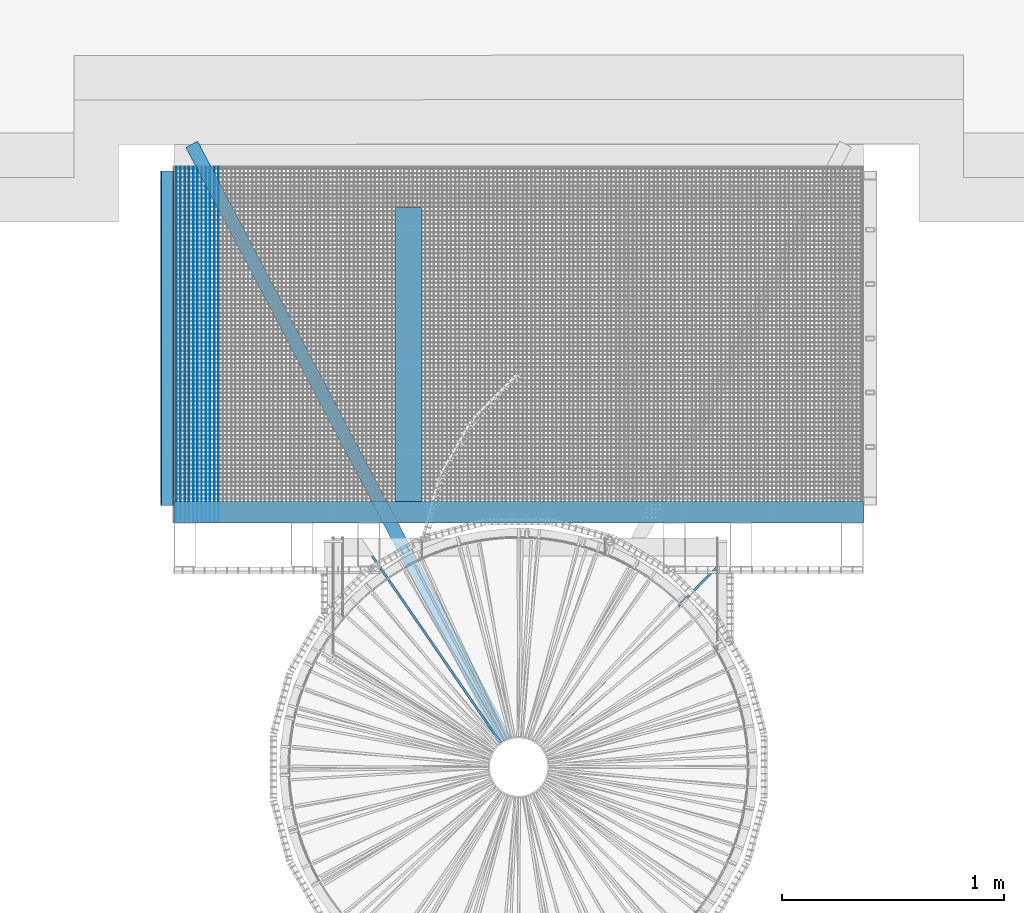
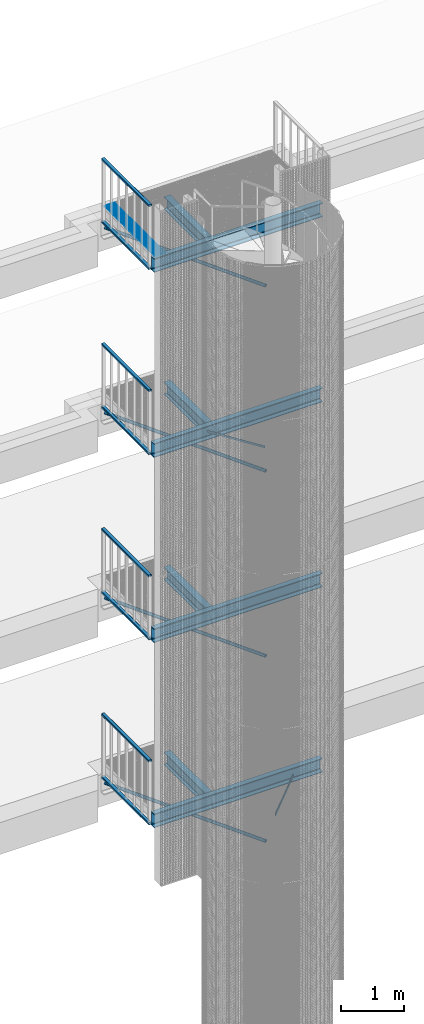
# One storey, part 77 of 1183: 33 beams, 23 elements without a shape of their own.
"""IFC2X3 building model written with IfcOpenShell, lengths in millimetres."""

from ifc_helpers import new_model, si_unit, frame, origin_with_axes, origin_2d_with_axis, place, context, subcontext, project, spatial, polyline, rectangle, hollow_rectangle, hollow_circle, i_section, u_section, outline, extrude, boolean, material, type_object, element, aggregate, save


model = new_model("IFC2X3")

# Units and contexts
model_context = context("Model", 3, precision=1e-05, world=origin_with_axes())
body_context = subcontext(model_context, "Body", "Model", "MODEL_VIEW")
ifc_project = project(units=[si_unit("LENGTHUNIT", "METRE", prefix="MILLI"), si_unit("AREAUNIT", "SQUARE_METRE"), si_unit("VOLUMEUNIT", "CUBIC_METRE"), si_unit("MASSUNIT", "GRAM", prefix="KILO"), si_unit("TIMEUNIT", "SECOND"), si_unit("PLANEANGLEUNIT", "RADIAN"), si_unit("SOLIDANGLEUNIT", "STERADIAN"), si_unit("THERMODYNAMICTEMPERATUREUNIT", "DEGREE_CELSIUS"), si_unit("LUMINOUSINTENSITYUNIT", "LUMEN")], contexts=[model_context])

# Site, building, storey
site_placement = place(None, origin_with_axes())
site = spatial("IfcSite", under=ifc_project, at=site_placement, Name="Undefined", CompositionType="ELEMENT")
building_placement = place(site_placement, origin_with_axes())
building = spatial("IfcBuilding", under=site, at=building_placement, Name="Undefined", CompositionType="ELEMENT")
storey_placement = place(building_placement, origin_with_axes())
storey = spatial("IfcBuildingStorey", under=building, at=storey_placement, Name="Undefined", CompositionType="ELEMENT", Elevation=0.0)

# Assembly, beams
assembly_1_placement = place(storey_placement, origin_with_axes())
assembly_1 = element("IfcElementAssembly", 1, at=assembly_1_placement, inside=storey, Name="BORDURE", AssemblyPlace="NOTDEFINED", PredefinedType="NOTDEFINED")
ifc_material_1 = material(Name="STEEL/S235JR")
beam_type_1 = type_object("IfcBeamType", Name="PL2*10", PredefinedType="NOTDEFINED")
beam_1_placement = place(assembly_1_placement, frame((-1538.92457524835, 1101.99474406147, 17285.0), z_axis=(0.0, 0.0, 1.0), x_axis=(-4.50599999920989e-06, 0.999999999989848, 0.0)))
beam_1 = element("IfcBeam", 2, at=beam_1_placement, type_object=beam_type_1, material=ifc_material_1, Name="ENTRETOISE", context=body_context, shape_type="SweptSolid", body=[
    extrude(rectangle(XDim=2.0, YDim=10.0, at=origin_2d_with_axis()), frame((1596.0000000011, -1.35186458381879e-18, -7.27595761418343e-12), z_axis=(-1.0, 0.0, 0.0), x_axis=(0.0, -1.0, 0.0)), (0.0, 0.0, 1.0), 1596.0),
])
beam_2_placement = place(assembly_1_placement, frame((-1519.92457524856, 1101.99483757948, 17285.0), z_axis=(0.0, 0.0, 1.0), x_axis=(-4.50599999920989e-06, 0.999999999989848, 0.0)))
beam_2 = element("IfcBeam", 3, at=beam_2_placement, type_object=beam_type_1, material=ifc_material_1, Name="ENTRETOISE", context=body_context, shape_type="SweptSolid", body=[
    extrude(rectangle(XDim=2.0, YDim=10.0, at=origin_2d_with_axis()), frame((1596.0000000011, -1.35186458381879e-18, -7.27595761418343e-12), z_axis=(-1.0, 0.0, 0.0), x_axis=(0.0, -1.0, 0.0)), (0.0, 0.0, 1.0), 1596.0),
])
beam_3_placement = place(assembly_1_placement, frame((-1500.92457524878, 1101.99493109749, 17285.0), z_axis=(0.0, 0.0, 1.0), x_axis=(-4.50599999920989e-06, 0.999999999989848, 0.0)))
beam_3 = element("IfcBeam", 4, at=beam_3_placement, type_object=beam_type_1, material=ifc_material_1, Name="ENTRETOISE", context=body_context, shape_type="SweptSolid", body=[
    extrude(rectangle(XDim=2.0, YDim=10.0, at=origin_2d_with_axis()), frame((1596.0000000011, -1.35186458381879e-18, -7.27595761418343e-12), z_axis=(-1.0, 0.0, 0.0), x_axis=(0.0, -1.0, 0.0)), (0.0, 0.0, 1.0), 1596.0),
])
beam_4_placement = place(assembly_1_placement, frame((-1481.92457524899, 1101.9950246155, 17285.0), z_axis=(0.0, 0.0, 1.0), x_axis=(-4.50599999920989e-06, 0.999999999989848, 0.0)))
beam_4 = element("IfcBeam", 5, at=beam_4_placement, type_object=beam_type_1, material=ifc_material_1, Name="ENTRETOISE", context=body_context, shape_type="SweptSolid", body=[
    extrude(rectangle(XDim=2.0, YDim=10.0, at=origin_2d_with_axis()), frame((1596.0000000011, -1.35186458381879e-18, -7.27595761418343e-12), z_axis=(-1.0, 0.0, 0.0), x_axis=(0.0, -1.0, 0.0)), (0.0, 0.0, 1.0), 1596.0),
])
beam_5_placement = place(assembly_1_placement, frame((-1462.92457524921, 1101.99511813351, 17285.0), z_axis=(0.0, 0.0, 1.0), x_axis=(-4.50599999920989e-06, 0.999999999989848, 0.0)))
beam_5 = element("IfcBeam", 6, at=beam_5_placement, type_object=beam_type_1, material=ifc_material_1, Name="ENTRETOISE", context=body_context, shape_type="SweptSolid", body=[
    extrude(rectangle(XDim=2.0, YDim=10.0, at=origin_2d_with_axis()), frame((1596.0000000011, -1.35186458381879e-18, -7.27595761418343e-12), z_axis=(-1.0, 0.0, 0.0), x_axis=(0.0, -1.0, 0.0)), (0.0, 0.0, 1.0), 1596.0),
])
beam_6_placement = place(assembly_1_placement, frame((-1443.92457524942, 1101.99521165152, 17285.0), z_axis=(0.0, 0.0, 1.0), x_axis=(-4.50599999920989e-06, 0.999999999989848, 0.0)))
beam_6 = element("IfcBeam", 7, at=beam_6_placement, type_object=beam_type_1, material=ifc_material_1, Name="ENTRETOISE", context=body_context, shape_type="SweptSolid", body=[
    extrude(rectangle(XDim=2.0, YDim=10.0, at=origin_2d_with_axis()), frame((1596.0000000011, -1.35186458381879e-18, -7.27595761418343e-12), z_axis=(-1.0, 0.0, 0.0), x_axis=(0.0, -1.0, 0.0)), (0.0, 0.0, 1.0), 1596.0),
])
beam_7_placement = place(assembly_1_placement, frame((-1424.92457524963, 1101.99530516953, 17285.0), z_axis=(0.0, 0.0, 1.0), x_axis=(-4.50599999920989e-06, 0.999999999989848, 0.0)))
beam_7 = element("IfcBeam", 8, at=beam_7_placement, type_object=beam_type_1, material=ifc_material_1, Name="ENTRETOISE", context=body_context, shape_type="SweptSolid", body=[
    extrude(rectangle(XDim=2.0, YDim=10.0, at=origin_2d_with_axis()), frame((1596.0000000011, -1.35186458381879e-18, -7.27595761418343e-12), z_axis=(-1.0, 0.0, 0.0), x_axis=(0.0, -1.0, 0.0)), (0.0, 0.0, 1.0), 1596.0),
])
beam_8_placement = place(assembly_1_placement, frame((-1405.92457524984, 1101.99539868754, 17285.0), z_axis=(0.0, 0.0, 1.0), x_axis=(-4.50599999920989e-06, 0.999999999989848, 0.0)))
beam_8 = element("IfcBeam", 9, at=beam_8_placement, type_object=beam_type_1, material=ifc_material_1, Name="ENTRETOISE", context=body_context, shape_type="SweptSolid", body=[
    extrude(rectangle(XDim=2.0, YDim=10.0, at=origin_2d_with_axis()), frame((1596.0000000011, -1.35186458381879e-18, -7.27595761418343e-12), z_axis=(-1.0, 0.0, 0.0), x_axis=(0.0, -1.0, 0.0)), (0.0, 0.0, 1.0), 1596.0),
])
beam_9_placement = place(assembly_1_placement, frame((-1386.92457525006, 1101.99549220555, 17285.0), z_axis=(0.0, 0.0, 1.0), x_axis=(-4.50599999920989e-06, 0.999999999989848, 0.0)))
beam_9 = element("IfcBeam", 10, at=beam_9_placement, type_object=beam_type_1, material=ifc_material_1, Name="ENTRETOISE", context=body_context, shape_type="SweptSolid", body=[
    extrude(rectangle(XDim=2.0, YDim=10.0, at=origin_2d_with_axis()), frame((1596.0000000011, -1.35186458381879e-18, -7.27595761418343e-12), z_axis=(-1.0, 0.0, 0.0), x_axis=(0.0, -1.0, 0.0)), (0.0, 0.0, 1.0), 1596.0),
])
beam_10_placement = place(assembly_1_placement, frame((-1367.92457525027, 1101.99558572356, 17285.0), z_axis=(0.0, 0.0, 1.0), x_axis=(-4.50599999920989e-06, 0.999999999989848, 0.0)))
beam_10 = element("IfcBeam", 11, at=beam_10_placement, type_object=beam_type_1, material=ifc_material_1, Name="ENTRETOISE", context=body_context, shape_type="SweptSolid", body=[
    extrude(rectangle(XDim=2.0, YDim=10.0, at=origin_2d_with_axis()), frame((1596.0000000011, -1.35186458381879e-18, -7.27595761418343e-12), z_axis=(-1.0, 0.0, 0.0), x_axis=(0.0, -1.0, 0.0)), (0.0, 0.0, 1.0), 1596.0),
])
beam_11_placement = place(assembly_1_placement, frame((-1348.92457525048, 1101.99567924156, 17285.0), z_axis=(0.0, 0.0, 1.0), x_axis=(-4.50599999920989e-06, 0.999999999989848, 0.0)))
beam_11 = element("IfcBeam", 12, at=beam_11_placement, type_object=beam_type_1, material=ifc_material_1, Name="ENTRETOISE", context=body_context, shape_type="SweptSolid", body=[
    extrude(rectangle(XDim=2.0, YDim=10.0, at=origin_2d_with_axis()), frame((1596.0000000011, -1.35186458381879e-18, -7.27595761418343e-12), z_axis=(-1.0, 0.0, 0.0), x_axis=(0.0, -1.0, 0.0)), (0.0, 0.0, 1.0), 1596.0),
])
aggregate(assembly_1, [beam_1, beam_2, beam_3, beam_4, beam_5, beam_6, beam_7, beam_8, beam_9, beam_10, beam_11])

# Assembly, beam
assembly_2_placement = place(storey_placement, origin_with_axes())
assembly_2 = element("IfcElementAssembly", 13, at=assembly_2_placement, inside=storey, Name="RAILING", AssemblyPlace="NOTDEFINED", PredefinedType="NOTDEFINED")
beam_type_2 = type_object("IfcBeamType", Name="TUBE-R-60*40*3", PredefinedType="NOTDEFINED")
beam_12_placement = place(assembly_2_placement, frame((-1580.07043456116, 1175.01007484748, 17020.0), z_axis=(0.999999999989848, -4.50599999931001e-06, 0.0), x_axis=(4.50599999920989e-06, 0.999999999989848, 0.0)))
beam_12 = element("IfcBeam", 14, at=beam_12_placement, type_object=beam_type_2, material=ifc_material_1, Name="RAILING", context=body_context, shape_type="SweptSolid", body=[
    extrude(hollow_rectangle(XDim=40.0, YDim=60.0, WallThickness=3.0, InnerFilletRadius=3.0, OuterFilletRadius=6.0, at=origin_2d_with_axis()), frame((1504.99832798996, 3.63797880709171e-12, -1.27478316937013e-18), z_axis=(-1.0, 0.0, 0.0), x_axis=(0.0, -1.0, 0.0)), (0.0, 0.0, 1.0), 1505.0),
])
aggregate(assembly_2, [beam_12])

assembly_3_placement = place(storey_placement, origin_with_axes())
assembly_3 = element("IfcElementAssembly", 15, at=assembly_3_placement, inside=storey, Name="RAILING", AssemblyPlace="NOTDEFINED", PredefinedType="NOTDEFINED")
beam_13_placement = place(assembly_3_placement, frame((-1580.07043456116, 1175.01007484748, 18240.0), z_axis=(0.999999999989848, -4.50599999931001e-06, 0.0), x_axis=(4.50599999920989e-06, 0.999999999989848, 0.0)))
beam_13 = element("IfcBeam", 16, at=beam_13_placement, type_object=beam_type_2, material=ifc_material_1, Name="RAILING", context=body_context, shape_type="SweptSolid", body=[
    extrude(hollow_rectangle(XDim=40.0, YDim=60.0, WallThickness=3.0, InnerFilletRadius=3.0, OuterFilletRadius=6.0, at=origin_2d_with_axis()), frame((1504.99832798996, 3.63797880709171e-12, -1.27478316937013e-18), z_axis=(-1.0, 0.0, 0.0), x_axis=(0.0, -1.0, 0.0)), (0.0, 0.0, 1.0), 1505.0),
])
aggregate(assembly_3, [beam_13])

assembly_4_placement = place(storey_placement, origin_with_axes())
assembly_4 = element("IfcElementAssembly", 17, at=assembly_4_placement, inside=storey, Name="RAILING", AssemblyPlace="NOTDEFINED", PredefinedType="NOTDEFINED")
beam_14_placement = place(assembly_4_placement, frame((-1580.07043456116, 1175.01007484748, 13420.0), z_axis=(0.999999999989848, -4.50599999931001e-06, 0.0), x_axis=(4.50599999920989e-06, 0.999999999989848, 0.0)))
beam_14 = element("IfcBeam", 18, at=beam_14_placement, type_object=beam_type_2, material=ifc_material_1, Name="RAILING", context=body_context, shape_type="SweptSolid", body=[
    extrude(hollow_rectangle(XDim=40.0, YDim=60.0, WallThickness=3.0, InnerFilletRadius=3.0, OuterFilletRadius=6.0, at=origin_2d_with_axis()), frame((1504.99832798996, 3.63797880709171e-12, -1.27478316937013e-18), z_axis=(-1.0, 0.0, 0.0), x_axis=(0.0, -1.0, 0.0)), (0.0, 0.0, 1.0), 1505.0),
])
aggregate(assembly_4, [beam_14])

assembly_5_placement = place(storey_placement, origin_with_axes())
assembly_5 = element("IfcElementAssembly", 19, at=assembly_5_placement, inside=storey, Name="RAILING", AssemblyPlace="NOTDEFINED", PredefinedType="NOTDEFINED")
beam_15_placement = place(assembly_5_placement, frame((-1580.07043456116, 1175.01007484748, 14640.0), z_axis=(0.999999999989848, -4.50599999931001e-06, 0.0), x_axis=(4.50599999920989e-06, 0.999999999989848, 0.0)))
beam_15 = element("IfcBeam", 20, at=beam_15_placement, type_object=beam_type_2, material=ifc_material_1, Name="RAILING", context=body_context, shape_type="SweptSolid", body=[
    extrude(hollow_rectangle(XDim=40.0, YDim=60.0, WallThickness=3.0, InnerFilletRadius=3.0, OuterFilletRadius=6.0, at=origin_2d_with_axis()), frame((1504.99832798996, 3.63797880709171e-12, -1.27478316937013e-18), z_axis=(-1.0, 0.0, 0.0), x_axis=(0.0, -1.0, 0.0)), (0.0, 0.0, 1.0), 1505.0),
])
aggregate(assembly_5, [beam_15])

assembly_6_placement = place(storey_placement, origin_with_axes())
assembly_6 = element("IfcElementAssembly", 21, at=assembly_6_placement, inside=storey, Name="RAILING", AssemblyPlace="NOTDEFINED", PredefinedType="NOTDEFINED")
beam_16_placement = place(assembly_6_placement, frame((-1580.07043456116, 1175.01007484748, 9820.0), z_axis=(0.999999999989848, -4.50599999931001e-06, 0.0), x_axis=(4.50599999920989e-06, 0.999999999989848, 0.0)))
beam_16 = element("IfcBeam", 22, at=beam_16_placement, type_object=beam_type_2, material=ifc_material_1, Name="RAILING", context=body_context, shape_type="SweptSolid", body=[
    extrude(hollow_rectangle(XDim=40.0, YDim=60.0, WallThickness=3.0, InnerFilletRadius=3.0, OuterFilletRadius=6.0, at=origin_2d_with_axis()), frame((1504.99832798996, 3.63797880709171e-12, -1.27478316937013e-18), z_axis=(-1.0, 0.0, 0.0), x_axis=(0.0, -1.0, 0.0)), (0.0, 0.0, 1.0), 1505.0),
])
aggregate(assembly_6, [beam_16])

assembly_7_placement = place(storey_placement, origin_with_axes())
assembly_7 = element("IfcElementAssembly", 23, at=assembly_7_placement, inside=storey, Name="RAILING", AssemblyPlace="NOTDEFINED", PredefinedType="NOTDEFINED")
beam_17_placement = place(assembly_7_placement, frame((-1580.07043456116, 1175.01007484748, 11040.0), z_axis=(0.999999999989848, -4.50599999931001e-06, 0.0), x_axis=(4.50599999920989e-06, 0.999999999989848, 0.0)))
beam_17 = element("IfcBeam", 24, at=beam_17_placement, type_object=beam_type_2, material=ifc_material_1, Name="RAILING", context=body_context, shape_type="SweptSolid", body=[
    extrude(hollow_rectangle(XDim=40.0, YDim=60.0, WallThickness=3.0, InnerFilletRadius=3.0, OuterFilletRadius=6.0, at=origin_2d_with_axis()), frame((1504.99832798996, 3.63797880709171e-12, -1.27478316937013e-18), z_axis=(-1.0, 0.0, 0.0), x_axis=(0.0, -1.0, 0.0)), (0.0, 0.0, 1.0), 1505.0),
])
aggregate(assembly_7, [beam_17])

assembly_8_placement = place(storey_placement, origin_with_axes())
assembly_8 = element("IfcElementAssembly", 25, at=assembly_8_placement, inside=storey, Name="RAILING", AssemblyPlace="NOTDEFINED", PredefinedType="NOTDEFINED")
beam_18_placement = place(assembly_8_placement, frame((-1580.07043456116, 1175.01007484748, 6220.0), z_axis=(0.999999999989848, -4.50599999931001e-06, 0.0), x_axis=(4.50599999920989e-06, 0.999999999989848, 0.0)))
beam_18 = element("IfcBeam", 26, at=beam_18_placement, type_object=beam_type_2, material=ifc_material_1, Name="RAILING", context=body_context, shape_type="SweptSolid", body=[
    extrude(hollow_rectangle(XDim=40.0, YDim=60.0, WallThickness=3.0, InnerFilletRadius=3.0, OuterFilletRadius=6.0, at=origin_2d_with_axis()), frame((1504.99832798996, 3.63797880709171e-12, -1.27478316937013e-18), z_axis=(-1.0, 0.0, 0.0), x_axis=(0.0, -1.0, 0.0)), (0.0, 0.0, 1.0), 1505.0),
])
aggregate(assembly_8, [beam_18])

assembly_9_placement = place(storey_placement, origin_with_axes())
assembly_9 = element("IfcElementAssembly", 27, at=assembly_9_placement, inside=storey, Name="RAILING", AssemblyPlace="NOTDEFINED", PredefinedType="NOTDEFINED")
beam_19_placement = place(assembly_9_placement, frame((-1580.07043456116, 1175.01007484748, 7440.0), z_axis=(0.999999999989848, -4.50599999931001e-06, 0.0), x_axis=(4.50599999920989e-06, 0.999999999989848, 0.0)))
beam_19 = element("IfcBeam", 28, at=beam_19_placement, type_object=beam_type_2, material=ifc_material_1, Name="RAILING", context=body_context, shape_type="SweptSolid", body=[
    extrude(hollow_rectangle(XDim=40.0, YDim=60.0, WallThickness=3.0, InnerFilletRadius=3.0, OuterFilletRadius=6.0, at=origin_2d_with_axis()), frame((1504.99832798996, 3.63797880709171e-12, -1.27478316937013e-18), z_axis=(-1.0, 0.0, 0.0), x_axis=(0.0, -1.0, 0.0)), (0.0, 0.0, 1.0), 1505.0),
])
aggregate(assembly_9, [beam_19])

assembly_10_placement = place(storey_placement, origin_with_axes())
assembly_10 = element("IfcElementAssembly", 29, at=assembly_10_placement, inside=storey, Name="POTEAU", AssemblyPlace="NOTDEFINED", PredefinedType="NOTDEFINED")
beam_type_3 = type_object("IfcBeamType", Name="PL10*40", PredefinedType="NOTDEFINED")
beam_20_placement = place(assembly_10_placement, frame((-51.6645409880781, 66.3066495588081, 13666.0), z_axis=(0.0, 0.0, 1.0), x_axis=(-0.566618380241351, 0.823980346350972, 0.0)))
beam_20 = element("IfcBeam", 30, at=beam_20_placement, type_object=beam_type_3, material=ifc_material_1, Name="RAIDISSEUR", context=body_context, shape_type="CSG", body=[
    boolean("DIFFERENCE", extrude(rectangle(XDim=10.0, YDim=40.0, at=origin_2d_with_axis()), frame((1068.32873394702, 0.0, 0.0), z_axis=(-1.0, 0.0, 0.0), x_axis=(0.0, -1.0, 0.0)), (0.0, 0.0, 1.0), 1068.33), extrude(outline(polyline([(0.0, 0.0), (30.5663019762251, -4.91127138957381e-11), (60.366242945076, 6.80164206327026), (87.9055294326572, 20.0638634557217), (111.803226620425, 39.1216410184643), (130.861004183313, 63.0193382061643), (144.123225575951, 90.5586246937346), (150.9248676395, 120.358565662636), (150.924867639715, 150.924867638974), (144.123225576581, 180.724808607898), (130.86100418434, 208.264095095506), (111.803226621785, 232.161792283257), (87.9055294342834, 251.219569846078), (60.3662429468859, 264.481791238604), (30.5663019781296, 271.283433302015), (1.90266291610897e-09, 271.28343330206), (-29.7999409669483, 264.481791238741), (-57.3392274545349, 251.219569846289), (-81.2369246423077, 232.161792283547), (-100.294702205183, 208.26409509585), (-113.556923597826, 180.724808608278), (-120.35856566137, 150.92486763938), (-120.358565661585, 120.358565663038), (-113.556923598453, 90.5586246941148), (-100.294702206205, 63.0193382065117), (-81.2369246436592, 39.1216410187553), (-57.3392274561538, 20.0638634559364), (-29.7999409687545, 6.80164206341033), (0.0, 0.0)])), frame((-3.78599313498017, 105.510135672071, -22.5), z_axis=(0.0, 0.0, 1.0), x_axis=(-0.870228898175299, 0.492647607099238, 0.0)), (0.0, 0.0, 1.0), 45.0)),
])
aggregate(assembly_10, [beam_20])

assembly_11_placement = place(storey_placement, origin_with_axes())
assembly_11 = element("IfcElementAssembly", 31, at=assembly_11_placement, inside=storey, Name="POTEAU", AssemblyPlace="NOTDEFINED", PredefinedType="NOTDEFINED")
beam_21_placement = place(assembly_11_placement, frame((62.3953803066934, 56.3295884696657, 6465.84000000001), z_axis=(0.0, 0.0, 1.0), x_axis=(0.701441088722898, 0.712727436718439, 0.0)))
beam_21 = element("IfcBeam", 32, at=beam_21_placement, type_object=beam_type_3, material=ifc_material_1, Name="RAIDISSEUR", context=body_context, shape_type="CSG", body=[
    boolean("DIFFERENCE", extrude(rectangle(XDim=10.0, YDim=40.0, at=origin_2d_with_axis()), frame((1177.56285850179, 0.0, 0.0), z_axis=(-1.0, 0.0, 0.0), x_axis=(0.0, -1.0, 0.0)), (0.0, 0.0, 1.0), 1177.56), extrude(outline(polyline([(0.0, 0.0), (30.5663019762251, -4.91127138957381e-11), (60.366242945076, 6.80164206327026), (87.9055294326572, 20.0638634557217), (111.803226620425, 39.1216410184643), (130.861004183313, 63.0193382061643), (144.123225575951, 90.5586246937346), (150.9248676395, 120.358565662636), (150.924867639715, 150.924867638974), (144.123225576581, 180.724808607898), (130.86100418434, 208.264095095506), (111.803226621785, 232.161792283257), (87.9055294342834, 251.219569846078), (60.3662429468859, 264.481791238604), (30.5663019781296, 271.283433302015), (1.90266291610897e-09, 271.28343330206), (-29.7999409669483, 264.481791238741), (-57.3392274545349, 251.219569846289), (-81.2369246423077, 232.161792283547), (-100.294702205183, 208.26409509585), (-113.556923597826, 180.724808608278), (-120.35856566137, 150.92486763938), (-120.358565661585, 120.358565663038), (-113.556923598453, 90.5586246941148), (-100.294702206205, 63.0193382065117), (-81.2369246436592, 39.1216410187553), (-57.3392274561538, 20.0638634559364), (-29.7999409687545, 6.80164206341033), (0.0, 0.0)])), frame((-177.205835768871, 104.603099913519, -22.5), z_axis=(0.0, 0.0, 1.0), x_axis=(-0.64888067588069, -0.760890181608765, 0.0)), (0.0, 0.0, 1.0), 45.0)),
])
aggregate(assembly_11, [beam_21])

assembly_12_placement = place(storey_placement, origin_with_axes())
assembly_12 = element("IfcElementAssembly", 33, at=assembly_12_placement, inside=storey, AssemblyPlace="NOTDEFINED", PredefinedType="NOTDEFINED")
ifc_material_2 = material(Name="STEEL/S275JR")
beam_type_4 = type_object("IfcBeamType", Name="TUBE-60.3*5", PredefinedType="NOTDEFINED")
beam_22_placement = place(assembly_12_placement, frame((-3.78986442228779e-09, -0.239999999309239, 16790.0), z_axis=(0.0, 0.0, 1.0), x_axis=(-0.464816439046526, 0.885407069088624, 0.0)))
beam_22 = element("IfcBeam", 34, at=beam_22_placement, type_object=beam_type_4, material=ifc_material_2, Name="BUTON", context=body_context, shape_type="CSG", body=[
    boolean("DIFFERENCE", extrude(hollow_circle(Radius=30.14999962, WallThickness=5.0, at=origin_2d_with_axis()), frame((3162.38211154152, 0.0, 0.0), z_axis=(-1.0, 0.0, 0.0), x_axis=(0.0, -1.0, 0.0)), (0.0, 0.0, 1.0), 3162.38), extrude(outline(polyline([(0.0, 0.0), (30.5663019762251, -4.91127138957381e-11), (60.366242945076, 6.80164206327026), (87.9055294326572, 20.0638634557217), (111.803226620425, 39.1216410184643), (130.861004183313, 63.0193382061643), (144.123225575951, 90.5586246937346), (150.9248676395, 120.358565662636), (150.924867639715, 150.924867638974), (144.123225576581, 180.724808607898), (130.86100418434, 208.264095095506), (111.803226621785, 232.161792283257), (87.9055294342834, 251.219569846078), (60.3662429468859, 264.481791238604), (30.5663019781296, 271.283433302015), (1.90266291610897e-09, 271.28343330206), (-29.7999409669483, 264.481791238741), (-57.3392274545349, 251.219569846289), (-81.2369246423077, 232.161792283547), (-100.294702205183, 208.26409509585), (-113.556923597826, 180.724808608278), (-120.35856566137, 150.92486763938), (-120.358565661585, 120.358565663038), (-113.556923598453, 90.5586246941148), (-100.294702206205, 63.0193382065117), (-81.2369246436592, 39.1216410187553), (-57.3392274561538, 20.0638634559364), (-29.7999409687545, 6.80164206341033), (0.0, 0.0)])), frame((66.6532963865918, 119.127155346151, -32.9999999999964), z_axis=(0.0, 0.0, 1.0), x_axis=(-0.922549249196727, 0.385879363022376, 0.0)), (0.0, 0.0, 1.0), 66.0)),
])
aggregate(assembly_12, [beam_22])

assembly_13_placement = place(storey_placement, origin_with_axes())
assembly_13 = element("IfcElementAssembly", 35, at=assembly_13_placement, inside=storey, AssemblyPlace="NOTDEFINED", PredefinedType="NOTDEFINED")
beam_23_placement = place(assembly_13_placement, frame((-3.78986442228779e-09, -0.159999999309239, 13190.0), z_axis=(0.0, 0.0, 1.0), x_axis=(-0.464816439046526, 0.885407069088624, 0.0)))
beam_23 = element("IfcBeam", 36, at=beam_23_placement, type_object=beam_type_4, material=ifc_material_2, Name="BUTON", context=body_context, shape_type="CSG", body=[
    boolean("DIFFERENCE", extrude(hollow_circle(Radius=30.14999962, WallThickness=5.0, at=origin_2d_with_axis()), frame((3162.38211154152, 0.0, 0.0), z_axis=(-1.0, 0.0, 0.0), x_axis=(0.0, -1.0, 0.0)), (0.0, 0.0, 1.0), 3162.38), extrude(outline(polyline([(0.0, 0.0), (30.5663019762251, -4.91127138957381e-11), (60.366242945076, 6.80164206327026), (87.9055294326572, 20.0638634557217), (111.803226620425, 39.1216410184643), (130.861004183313, 63.0193382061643), (144.123225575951, 90.5586246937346), (150.9248676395, 120.358565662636), (150.924867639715, 150.924867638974), (144.123225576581, 180.724808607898), (130.86100418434, 208.264095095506), (111.803226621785, 232.161792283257), (87.9055294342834, 251.219569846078), (60.3662429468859, 264.481791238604), (30.5663019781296, 271.283433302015), (1.90266291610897e-09, 271.28343330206), (-29.7999409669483, 264.481791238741), (-57.3392274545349, 251.219569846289), (-81.2369246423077, 232.161792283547), (-100.294702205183, 208.26409509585), (-113.556923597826, 180.724808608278), (-120.35856566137, 150.92486763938), (-120.358565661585, 120.358565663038), (-113.556923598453, 90.5586246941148), (-100.294702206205, 63.0193382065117), (-81.2369246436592, 39.1216410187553), (-57.3392274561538, 20.0638634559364), (-29.7999409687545, 6.80164206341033), (0.0, 0.0)])), frame((66.5824638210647, 119.164340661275, -32.9999999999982), z_axis=(0.0, 0.0, 1.0), x_axis=(-0.922549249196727, 0.385879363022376, 0.0)), (0.0, 0.0, 1.0), 66.0)),
])
aggregate(assembly_13, [beam_23])

assembly_14_placement = place(storey_placement, origin_with_axes())
assembly_14 = element("IfcElementAssembly", 37, at=assembly_14_placement, inside=storey, AssemblyPlace="NOTDEFINED", PredefinedType="NOTDEFINED")
beam_24_placement = place(assembly_14_placement, frame((-3.78986442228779e-09, -0.0799999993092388, 9590.0), z_axis=(0.0, 0.0, 1.0), x_axis=(-0.464816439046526, 0.885407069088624, 0.0)))
beam_24 = element("IfcBeam", 38, at=beam_24_placement, type_object=beam_type_4, material=ifc_material_2, Name="BUTON", context=body_context, shape_type="CSG", body=[
    boolean("DIFFERENCE", extrude(hollow_circle(Radius=30.14999962, WallThickness=5.0, at=origin_2d_with_axis()), frame((3162.38211154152, 0.0, 0.0), z_axis=(-1.0, 0.0, 0.0), x_axis=(0.0, -1.0, 0.0)), (0.0, 0.0, 1.0), 3162.38), extrude(outline(polyline([(0.0, 0.0), (30.5663019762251, -4.91127138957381e-11), (60.366242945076, 6.80164206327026), (87.9055294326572, 20.0638634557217), (111.803226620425, 39.1216410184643), (130.861004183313, 63.0193382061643), (144.123225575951, 90.5586246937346), (150.9248676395, 120.358565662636), (150.924867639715, 150.924867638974), (144.123225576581, 180.724808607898), (130.86100418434, 208.264095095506), (111.803226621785, 232.161792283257), (87.9055294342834, 251.219569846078), (60.3662429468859, 264.481791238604), (30.5663019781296, 271.283433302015), (1.90266291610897e-09, 271.28343330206), (-29.7999409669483, 264.481791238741), (-57.3392274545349, 251.219569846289), (-81.2369246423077, 232.161792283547), (-100.294702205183, 208.26409509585), (-113.556923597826, 180.724808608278), (-120.35856566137, 150.92486763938), (-120.358565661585, 120.358565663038), (-113.556923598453, 90.5586246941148), (-100.294702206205, 63.0193382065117), (-81.2369246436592, 39.1216410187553), (-57.3392274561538, 20.0638634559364), (-29.7999409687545, 6.80164206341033), (0.0, 0.0)])), frame((66.5116312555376, 119.201525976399, -32.9999999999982), z_axis=(0.0, 0.0, 1.0), x_axis=(-0.922549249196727, 0.385879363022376, 0.0)), (0.0, 0.0, 1.0), 66.0)),
])
aggregate(assembly_14, [beam_24])

assembly_15_placement = place(storey_placement, origin_with_axes())
assembly_15 = element("IfcElementAssembly", 39, at=assembly_15_placement, inside=storey, AssemblyPlace="NOTDEFINED", PredefinedType="NOTDEFINED")
beam_25_placement = place(assembly_15_placement, frame((-3.78986442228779e-09, 6.90761225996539e-10, 5990.0), z_axis=(0.0, 0.0, 1.0), x_axis=(-0.464816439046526, 0.885407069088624, 0.0)))
beam_25 = element("IfcBeam", 40, at=beam_25_placement, type_object=beam_type_4, material=ifc_material_2, Name="BUTON", context=body_context, shape_type="CSG", body=[
    boolean("DIFFERENCE", extrude(hollow_circle(Radius=30.14999962, WallThickness=5.0, at=origin_2d_with_axis()), frame((3162.38211154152, 0.0, 0.0), z_axis=(-1.0, 0.0, 0.0), x_axis=(0.0, -1.0, 0.0)), (0.0, 0.0, 1.0), 3162.38), extrude(outline(polyline([(0.0, 0.0), (30.5663019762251, -4.91127138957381e-11), (60.366242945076, 6.80164206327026), (87.9055294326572, 20.0638634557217), (111.803226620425, 39.1216410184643), (130.861004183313, 63.0193382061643), (144.123225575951, 90.5586246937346), (150.9248676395, 120.358565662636), (150.924867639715, 150.924867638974), (144.123225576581, 180.724808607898), (130.86100418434, 208.264095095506), (111.803226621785, 232.161792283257), (87.9055294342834, 251.219569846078), (60.3662429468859, 264.481791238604), (30.5663019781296, 271.283433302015), (1.90266291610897e-09, 271.28343330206), (-29.7999409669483, 264.481791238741), (-57.3392274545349, 251.219569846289), (-81.2369246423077, 232.161792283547), (-100.294702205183, 208.26409509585), (-113.556923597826, 180.724808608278), (-120.35856566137, 150.92486763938), (-120.358565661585, 120.358565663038), (-113.556923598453, 90.5586246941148), (-100.294702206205, 63.0193382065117), (-81.2369246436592, 39.1216410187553), (-57.3392274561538, 20.0638634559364), (-29.7999409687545, 6.80164206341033), (0.0, 0.0)])), frame((66.4407986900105, 119.238711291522, -33.0000000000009), z_axis=(0.0, 0.0, 1.0), x_axis=(-0.922549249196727, 0.385879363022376, 0.0)), (0.0, 0.0, 1.0), 66.0)),
])
aggregate(assembly_15, [beam_25])

assembly_16_placement = place(storey_placement, origin_with_axes())
assembly_16 = element("IfcElementAssembly", 41, at=assembly_16_placement, inside=storey, AssemblyPlace="NOTDEFINED", PredefinedType="NOTDEFINED")
beam_type_5 = type_object("IfcBeamType", Name="IPE240", PredefinedType="NOTDEFINED")
beam_26_placement = place(assembly_16_placement, frame((-496.589565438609, 1195.00994809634, 17120.0), z_axis=(0.0, 0.0, 1.0), x_axis=(-4.50599999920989e-06, 0.999999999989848, 0.0)))
beam_26 = element("IfcBeam", 42, at=beam_26_placement, type_object=beam_type_5, material=ifc_material_1, Name="EXISTANTS", context=body_context, shape_type="SweptSolid", body=[
    extrude(i_section(OverallWidth=120.0, OverallDepth=240.0, WebThickness=6.199999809, FlangeThickness=9.800000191, FilletRadius=15.0, at=origin_2d_with_axis()), frame((1319.99832798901, 0.0, -3.63797880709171e-12), z_axis=(-1.0, 0.0, 0.0), x_axis=(0.0, -1.0, 0.0)), (0.0, 0.0, 1.0), 1320.0),
])
aggregate(assembly_16, [beam_26])

assembly_17_placement = place(storey_placement, origin_with_axes())
assembly_17 = element("IfcElementAssembly", 43, at=assembly_17_placement, inside=storey, AssemblyPlace="NOTDEFINED", PredefinedType="NOTDEFINED")
beam_27_placement = place(assembly_17_placement, frame((-496.589565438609, 1195.00994809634, 13520.0), z_axis=(0.0, 0.0, 1.0), x_axis=(-4.50599999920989e-06, 0.999999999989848, 0.0)))
beam_27 = element("IfcBeam", 44, at=beam_27_placement, type_object=beam_type_5, material=ifc_material_1, Name="EXISTANTS", context=body_context, shape_type="SweptSolid", body=[
    extrude(i_section(OverallWidth=120.0, OverallDepth=240.0, WebThickness=6.199999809, FlangeThickness=9.800000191, FilletRadius=15.0, at=origin_2d_with_axis()), frame((1319.99832798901, 0.0, -3.63797880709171e-12), z_axis=(-1.0, 0.0, 0.0), x_axis=(0.0, -1.0, 0.0)), (0.0, 0.0, 1.0), 1320.0),
])
aggregate(assembly_17, [beam_27])

assembly_18_placement = place(storey_placement, origin_with_axes())
assembly_18 = element("IfcElementAssembly", 45, at=assembly_18_placement, inside=storey, AssemblyPlace="NOTDEFINED", PredefinedType="NOTDEFINED")
beam_28_placement = place(assembly_18_placement, frame((-496.589565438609, 1195.00994809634, 9920.0), z_axis=(0.0, 0.0, 1.0), x_axis=(-4.50599999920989e-06, 0.999999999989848, 0.0)))
beam_28 = element("IfcBeam", 46, at=beam_28_placement, type_object=beam_type_5, material=ifc_material_1, Name="EXISTANTS", context=body_context, shape_type="SweptSolid", body=[
    extrude(i_section(OverallWidth=120.0, OverallDepth=240.0, WebThickness=6.199999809, FlangeThickness=9.800000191, FilletRadius=15.0, at=origin_2d_with_axis()), frame((1319.99832798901, 0.0, -3.63797880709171e-12), z_axis=(-1.0, 0.0, 0.0), x_axis=(0.0, -1.0, 0.0)), (0.0, 0.0, 1.0), 1320.0),
])
aggregate(assembly_18, [beam_28])

assembly_19_placement = place(storey_placement, origin_with_axes())
assembly_19 = element("IfcElementAssembly", 47, at=assembly_19_placement, inside=storey, AssemblyPlace="NOTDEFINED", PredefinedType="NOTDEFINED")
beam_29_placement = place(assembly_19_placement, frame((-496.589565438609, 1195.00994809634, 6320.0), z_axis=(0.0, 0.0, 1.0), x_axis=(-4.50599999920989e-06, 0.999999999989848, 0.0)))
beam_29 = element("IfcBeam", 48, at=beam_29_placement, type_object=beam_type_5, material=ifc_material_1, Name="EXISTANTS", context=body_context, shape_type="SweptSolid", body=[
    extrude(i_section(OverallWidth=120.0, OverallDepth=240.0, WebThickness=6.199999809, FlangeThickness=9.800000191, FilletRadius=15.0, at=origin_2d_with_axis()), frame((1319.99832798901, 0.0, -3.63797880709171e-12), z_axis=(-1.0, 0.0, 0.0), x_axis=(0.0, -1.0, 0.0)), (0.0, 0.0, 1.0), 1320.0),
])
aggregate(assembly_19, [beam_29])

assembly_20_placement = place(storey_placement, origin_with_axes())
assembly_20 = element("IfcElementAssembly", 49, at=assembly_20_placement, inside=storey, AssemblyPlace="NOTDEFINED", PredefinedType="NOTDEFINED")
beam_type_6 = type_object("IfcBeamType", Name="UPE270", PredefinedType="NOTDEFINED")
beam_30_placement = place(assembly_20_placement, frame((-1549.92064396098, 1147.49468994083, 17105.0), z_axis=(0.0, 0.0, 1.0), x_axis=(0.999999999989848, 4.50600000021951e-06, 0.0)))
beam_30 = element("IfcBeam", 50, at=beam_30_placement, type_object=beam_type_6, material=ifc_material_1, Name="EXISTANTS", context=body_context, shape_type="SweptSolid", body=[
    extrude(u_section(Depth=270.0, FlangeWidth=95.0, WebThickness=7.5, FlangeThickness=13.5, FilletRadius=15.0, at=origin_2d_with_axis()), frame((3099.99084151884, -4.54747022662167e-13, 3.63797880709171e-12), z_axis=(-1.0, 0.0, 0.0), x_axis=(0.0, -1.0, 0.0)), (0.0, 0.0, 1.0), 3099.99),
])
aggregate(assembly_20, [beam_30])

assembly_21_placement = place(storey_placement, origin_with_axes())
assembly_21 = element("IfcElementAssembly", 51, at=assembly_21_placement, inside=storey, AssemblyPlace="NOTDEFINED", PredefinedType="NOTDEFINED")
beam_31_placement = place(assembly_21_placement, frame((-1549.92064396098, 1147.49468994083, 13505.0), z_axis=(0.0, 0.0, 1.0), x_axis=(0.999999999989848, 4.50600000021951e-06, 0.0)))
beam_31 = element("IfcBeam", 52, at=beam_31_placement, type_object=beam_type_6, material=ifc_material_1, Name="EXISTANTS", context=body_context, shape_type="SweptSolid", body=[
    extrude(u_section(Depth=270.0, FlangeWidth=95.0, WebThickness=7.5, FlangeThickness=13.5, FilletRadius=15.0, at=origin_2d_with_axis()), frame((3099.99084151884, -4.54747022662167e-13, 3.63797880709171e-12), z_axis=(-1.0, 0.0, 0.0), x_axis=(0.0, -1.0, 0.0)), (0.0, 0.0, 1.0), 3099.99),
])
aggregate(assembly_21, [beam_31])

assembly_22_placement = place(storey_placement, origin_with_axes())
assembly_22 = element("IfcElementAssembly", 53, at=assembly_22_placement, inside=storey, AssemblyPlace="NOTDEFINED", PredefinedType="NOTDEFINED")
beam_32_placement = place(assembly_22_placement, frame((-1549.92064396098, 1147.49468994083, 9905.0), z_axis=(0.0, 0.0, 1.0), x_axis=(0.999999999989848, 4.50600000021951e-06, 0.0)))
beam_32 = element("IfcBeam", 54, at=beam_32_placement, type_object=beam_type_6, material=ifc_material_1, Name="EXISTANTS", context=body_context, shape_type="SweptSolid", body=[
    extrude(u_section(Depth=270.0, FlangeWidth=95.0, WebThickness=7.5, FlangeThickness=13.5, FilletRadius=15.0, at=origin_2d_with_axis()), frame((3099.99084151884, -4.54747022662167e-13, 3.63797880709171e-12), z_axis=(-1.0, 0.0, 0.0), x_axis=(0.0, -1.0, 0.0)), (0.0, 0.0, 1.0), 3099.99),
])
aggregate(assembly_22, [beam_32])

assembly_23_placement = place(storey_placement, origin_with_axes())
assembly_23 = element("IfcElementAssembly", 55, at=assembly_23_placement, inside=storey, AssemblyPlace="NOTDEFINED", PredefinedType="NOTDEFINED")
beam_33_placement = place(assembly_23_placement, frame((-1549.92064396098, 1147.49468994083, 6305.0), z_axis=(0.0, 0.0, 1.0), x_axis=(0.999999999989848, 4.50600000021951e-06, 0.0)))
beam_33 = element("IfcBeam", 56, at=beam_33_placement, type_object=beam_type_6, material=ifc_material_1, Name="EXISTANTS", context=body_context, shape_type="SweptSolid", body=[
    extrude(u_section(Depth=270.0, FlangeWidth=95.0, WebThickness=7.5, FlangeThickness=13.5, FilletRadius=15.0, at=origin_2d_with_axis()), frame((3099.99084151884, -4.54747022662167e-13, 3.63797880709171e-12), z_axis=(-1.0, 0.0, 0.0), x_axis=(0.0, -1.0, 0.0)), (0.0, 0.0, 1.0), 3099.99),
])
aggregate(assembly_23, [beam_33])

save(model, "model.ifc")
